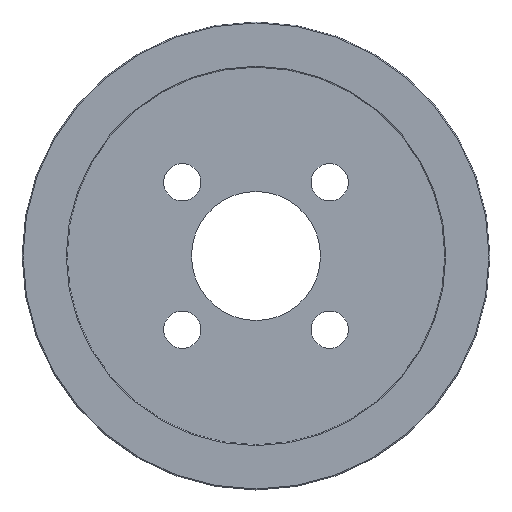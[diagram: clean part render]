
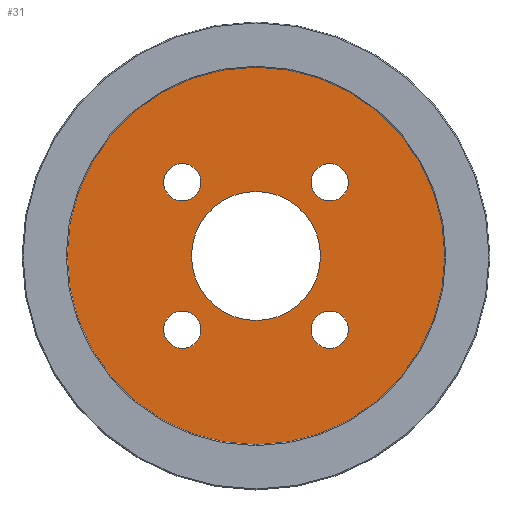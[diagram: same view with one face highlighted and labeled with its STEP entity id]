
A CAD part, top view. The second image highlights one B-rep face of the part: STEP entity #31.
In plain terms, the highlighted planar face has unit normal (0, 0, 1).
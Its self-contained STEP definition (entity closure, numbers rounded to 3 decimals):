
#23 = EDGE_LOOP ( 'NONE', ( #53, #427 ) ) ;
#31 = ADVANCED_FACE ( 'NONE', ( #104, #32, #1128, #152, #440, #348 ), #730, .T. ) ;
#32 = FACE_BOUND ( 'NONE', #171, .T. ) ;
#41 = ORIENTED_EDGE ( 'NONE', *, *, #576, .F. ) ;
#47 = DIRECTION ( 'NONE',  ( 1., 0., 0. ) ) ;
#53 = ORIENTED_EDGE ( 'NONE', *, *, #909, .T. ) ;
#64 = CARTESIAN_POINT ( 'NONE',  ( 8., -8., 1.5 ) ) ;
#65 = DIRECTION ( 'NONE',  ( 0., 0., 1. ) ) ;
#84 = VERTEX_POINT ( 'NONE', #1127 ) ;
#88 = CARTESIAN_POINT ( 'NONE',  ( 5.975, -8., 1.5 ) ) ;
#102 = ORIENTED_EDGE ( 'NONE', *, *, #700, .F. ) ;
#104 = FACE_OUTER_BOUND ( 'NONE', #23, .T. ) ;
#108 = VERTEX_POINT ( 'NONE', #119 ) ;
#119 = CARTESIAN_POINT ( 'NONE',  ( 24.05, 0., 1.5 ) ) ;
#126 = CIRCLE ( 'NONE', #1028, 2.025 ) ;
#133 = ORIENTED_EDGE ( 'NONE', *, *, #792, .F. ) ;
#145 = EDGE_LOOP ( 'NONE', ( #1123, #102 ) ) ;
#152 = FACE_BOUND ( 'NONE', #145, .T. ) ;
#167 = VERTEX_POINT ( 'NONE', #287 ) ;
#169 = EDGE_CURVE ( 'NONE', #367, #935, #944, .T. ) ;
#171 = EDGE_LOOP ( 'NONE', ( #41, #251 ) ) ;
#175 = ORIENTED_EDGE ( 'NONE', *, *, #708, .F. ) ;
#181 = CARTESIAN_POINT ( 'NONE',  ( 0., 0., 1.5 ) ) ;
#183 = DIRECTION ( 'NONE',  ( 0., 0., 1. ) ) ;
#218 = EDGE_CURVE ( 'NONE', #1108, #84, #470, .T. ) ;
#227 = CARTESIAN_POINT ( 'NONE',  ( 8., 8., 1.5 ) ) ;
#231 = CARTESIAN_POINT ( 'NONE',  ( 7., 0., 1.5 ) ) ;
#235 = DIRECTION ( 'NONE',  ( 0., 0., 1. ) ) ;
#251 = ORIENTED_EDGE ( 'NONE', *, *, #514, .F. ) ;
#254 = CIRCLE ( 'NONE', #491, 24.05 ) ;
#275 = AXIS2_PLACEMENT_3D ( 'NONE', #888, #978, #800 ) ;
#287 = CARTESIAN_POINT ( 'NONE',  ( -10.025, 8., 1.5 ) ) ;
#291 = CARTESIAN_POINT ( 'NONE',  ( 0., 0., 1.5 ) ) ;
#304 = DIRECTION ( 'NONE',  ( 0., 0., 1. ) ) ;
#322 = AXIS2_PLACEMENT_3D ( 'NONE', #766, #405, #402 ) ;
#348 = FACE_BOUND ( 'NONE', #649, .T. ) ;
#349 = DIRECTION ( 'NONE',  ( 0., 0., 1. ) ) ;
#351 = AXIS2_PLACEMENT_3D ( 'NONE', #674, #304, #1061 ) ;
#363 = DIRECTION ( 'NONE',  ( 1., 0., 0. ) ) ;
#367 = VERTEX_POINT ( 'NONE', #231 ) ;
#378 = DIRECTION ( 'NONE',  ( 0., 0., 1. ) ) ;
#384 = DIRECTION ( 'NONE',  ( 0., 0., 1. ) ) ;
#390 = EDGE_LOOP ( 'NONE', ( #175, #1082 ) ) ;
#402 = DIRECTION ( 'NONE',  ( 1., 0., 0. ) ) ;
#403 = DIRECTION ( 'NONE',  ( 0., 0., 1. ) ) ;
#405 = DIRECTION ( 'NONE',  ( 0., 0., 1. ) ) ;
#427 = ORIENTED_EDGE ( 'NONE', *, *, #1065, .T. ) ;
#440 = FACE_BOUND ( 'NONE', #1166, .T. ) ;
#448 = VERTEX_POINT ( 'NONE', #784 ) ;
#459 = ORIENTED_EDGE ( 'NONE', *, *, #841, .F. ) ;
#470 = CIRCLE ( 'NONE', #351, 2.025 ) ;
#475 = AXIS2_PLACEMENT_3D ( 'NONE', #291, #384, #569 ) ;
#491 = AXIS2_PLACEMENT_3D ( 'NONE', #696, #349, #702 ) ;
#507 = DIRECTION ( 'NONE',  ( 1., 0., 0. ) ) ;
#514 = EDGE_CURVE ( 'NONE', #448, #536, #777, .T. ) ;
#516 = AXIS2_PLACEMENT_3D ( 'NONE', #903, #615, #1175 ) ;
#517 = CARTESIAN_POINT ( 'NONE',  ( 5.975, 8., 1.5 ) ) ;
#520 = CARTESIAN_POINT ( 'NONE',  ( -24.05, 0., 1.5 ) ) ;
#527 = VERTEX_POINT ( 'NONE', #88 ) ;
#536 = VERTEX_POINT ( 'NONE', #808 ) ;
#545 = CARTESIAN_POINT ( 'NONE',  ( -8., -8., 1.5 ) ) ;
#566 = CIRCLE ( 'NONE', #275, 2.025 ) ;
#569 = DIRECTION ( 'NONE',  ( 1., 0., 0. ) ) ;
#576 = EDGE_CURVE ( 'NONE', #536, #448, #126, .T. ) ;
#585 = VERTEX_POINT ( 'NONE', #520 ) ;
#597 = AXIS2_PLACEMENT_3D ( 'NONE', #181, #183, #363 ) ;
#615 = DIRECTION ( 'NONE',  ( 0., 0., 1. ) ) ;
#627 = VERTEX_POINT ( 'NONE', #878 ) ;
#649 = EDGE_LOOP ( 'NONE', ( #937, #1059 ) ) ;
#668 = CIRCLE ( 'NONE', #836, 2.025 ) ;
#671 = DIRECTION ( 'NONE',  ( 1., 0., 0. ) ) ;
#674 = CARTESIAN_POINT ( 'NONE',  ( 8., 8., 1.5 ) ) ;
#679 = CIRCLE ( 'NONE', #516, 7. ) ;
#687 = DIRECTION ( 'NONE',  ( 1., 0., 0. ) ) ;
#695 = CIRCLE ( 'NONE', #475, 24.05 ) ;
#696 = CARTESIAN_POINT ( 'NONE',  ( 0., 0., 1.5 ) ) ;
#700 = EDGE_CURVE ( 'NONE', #84, #1108, #742, .T. ) ;
#702 = DIRECTION ( 'NONE',  ( 1., 0., 0. ) ) ;
#703 = AXIS2_PLACEMENT_3D ( 'NONE', #227, #860, #804 ) ;
#708 = EDGE_CURVE ( 'NONE', #527, #950, #566, .T. ) ;
#728 = AXIS2_PLACEMENT_3D ( 'NONE', #64, #235, #1068 ) ;
#730 = PLANE ( 'NONE',  #597 ) ;
#732 = CARTESIAN_POINT ( 'NONE',  ( 10.025, -8., 1.5 ) ) ;
#742 = CIRCLE ( 'NONE', #703, 2.025 ) ;
#760 = EDGE_CURVE ( 'NONE', #950, #527, #900, .T. ) ;
#766 = CARTESIAN_POINT ( 'NONE',  ( 0., 0., 1.5 ) ) ;
#771 = AXIS2_PLACEMENT_3D ( 'NONE', #545, #378, #671 ) ;
#777 = CIRCLE ( 'NONE', #771, 2.025 ) ;
#784 = CARTESIAN_POINT ( 'NONE',  ( -5.975, -8., 1.5 ) ) ;
#786 = DIRECTION ( 'NONE',  ( 0., 0., 1. ) ) ;
#792 = EDGE_CURVE ( 'NONE', #627, #167, #668, .T. ) ;
#797 = CARTESIAN_POINT ( 'NONE',  ( -8., 8., 1.5 ) ) ;
#800 = DIRECTION ( 'NONE',  ( 1., 0., 0. ) ) ;
#804 = DIRECTION ( 'NONE',  ( 1., 0., 0. ) ) ;
#808 = CARTESIAN_POINT ( 'NONE',  ( -10.025, -8., 1.5 ) ) ;
#836 = AXIS2_PLACEMENT_3D ( 'NONE', #797, #786, #507 ) ;
#841 = EDGE_CURVE ( 'NONE', #167, #627, #1087, .T. ) ;
#860 = DIRECTION ( 'NONE',  ( 0., 0., 1. ) ) ;
#878 = CARTESIAN_POINT ( 'NONE',  ( -5.975, 8., 1.5 ) ) ;
#883 = CARTESIAN_POINT ( 'NONE',  ( -8., 8., 1.5 ) ) ;
#888 = CARTESIAN_POINT ( 'NONE',  ( 8., -8., 1.5 ) ) ;
#900 = CIRCLE ( 'NONE', #728, 2.025 ) ;
#903 = CARTESIAN_POINT ( 'NONE',  ( 0., 0., 1.5 ) ) ;
#909 = EDGE_CURVE ( 'NONE', #585, #108, #695, .T. ) ;
#935 = VERTEX_POINT ( 'NONE', #941 ) ;
#937 = ORIENTED_EDGE ( 'NONE', *, *, #1111, .F. ) ;
#941 = CARTESIAN_POINT ( 'NONE',  ( -7., 0., 1.5 ) ) ;
#944 = CIRCLE ( 'NONE', #322, 7. ) ;
#950 = VERTEX_POINT ( 'NONE', #732 ) ;
#978 = DIRECTION ( 'NONE',  ( 0., 0., 1. ) ) ;
#1028 = AXIS2_PLACEMENT_3D ( 'NONE', #1046, #403, #47 ) ;
#1046 = CARTESIAN_POINT ( 'NONE',  ( -8., -8., 1.5 ) ) ;
#1048 = AXIS2_PLACEMENT_3D ( 'NONE', #883, #65, #687 ) ;
#1059 = ORIENTED_EDGE ( 'NONE', *, *, #169, .F. ) ;
#1061 = DIRECTION ( 'NONE',  ( 1., 0., 0. ) ) ;
#1065 = EDGE_CURVE ( 'NONE', #108, #585, #254, .T. ) ;
#1068 = DIRECTION ( 'NONE',  ( 1., 0., 0. ) ) ;
#1082 = ORIENTED_EDGE ( 'NONE', *, *, #760, .F. ) ;
#1087 = CIRCLE ( 'NONE', #1048, 2.025 ) ;
#1108 = VERTEX_POINT ( 'NONE', #517 ) ;
#1111 = EDGE_CURVE ( 'NONE', #935, #367, #679, .T. ) ;
#1123 = ORIENTED_EDGE ( 'NONE', *, *, #218, .F. ) ;
#1127 = CARTESIAN_POINT ( 'NONE',  ( 10.025, 8., 1.5 ) ) ;
#1128 = FACE_BOUND ( 'NONE', #390, .T. ) ;
#1166 = EDGE_LOOP ( 'NONE', ( #459, #133 ) ) ;
#1175 = DIRECTION ( 'NONE',  ( 1., 0., 0. ) ) ;
